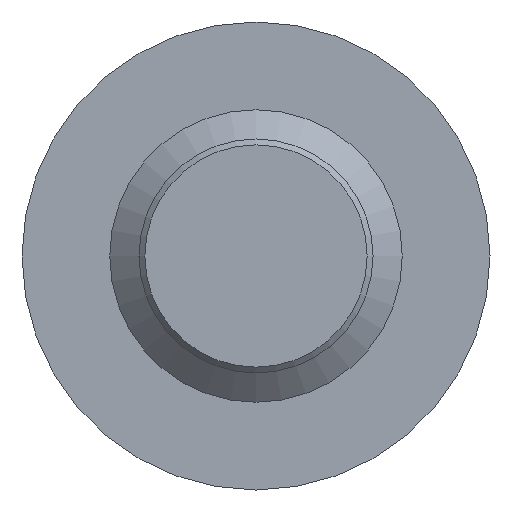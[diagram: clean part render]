
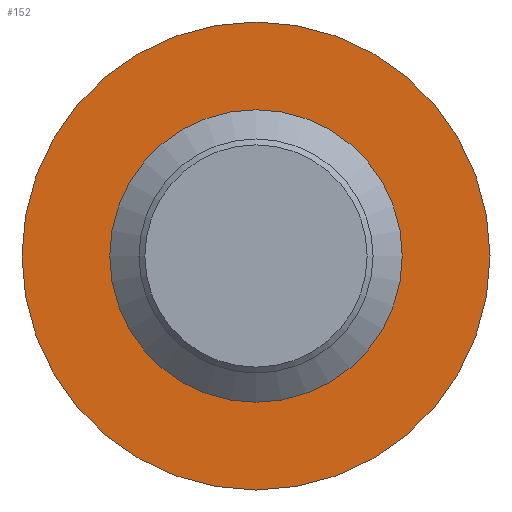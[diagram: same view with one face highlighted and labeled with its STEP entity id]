
A CAD part, front view. The second image highlights one B-rep face of the part: STEP entity #152.
In plain terms, the highlighted planar face has unit normal (0, -1, 0).
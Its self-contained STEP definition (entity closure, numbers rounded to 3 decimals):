
#15=FACE_BOUND('',#57,.T.);
#21=PLANE('',#195);
#45=FACE_OUTER_BOUND('',#56,.T.);
#56=EDGE_LOOP('',(#129));
#57=EDGE_LOOP('',(#130));
#67=CIRCLE('',#186,8.);
#72=CIRCLE('',#196,4.25);
#79=VERTEX_POINT('',#270);
#84=VERTEX_POINT('',#288);
#93=EDGE_CURVE('',#79,#79,#67,.T.);
#100=EDGE_CURVE('',#84,#84,#72,.T.);
#129=ORIENTED_EDGE('',*,*,#93,.F.);
#130=ORIENTED_EDGE('',*,*,#100,.F.);
#152=ADVANCED_FACE('',(#45,#15),#21,.F.);
#186=AXIS2_PLACEMENT_3D('',#272,#219,#220);
#195=AXIS2_PLACEMENT_3D('',#287,#239,#240);
#196=AXIS2_PLACEMENT_3D('',#289,#241,#242);
#219=DIRECTION('center_axis',(0.,1.,0.));
#220=DIRECTION('ref_axis',(1.,0.,0.));
#239=DIRECTION('center_axis',(0.,1.,0.));
#240=DIRECTION('ref_axis',(0.,0.,1.));
#241=DIRECTION('center_axis',(0.,-1.,0.));
#242=DIRECTION('ref_axis',(1.,0.,0.));
#270=CARTESIAN_POINT('',(-8.,36.6,0.));
#272=CARTESIAN_POINT('Origin',(0.,36.6,0.));
#287=CARTESIAN_POINT('Origin',(0.,36.6,0.));
#288=CARTESIAN_POINT('',(-4.25,36.6,0.));
#289=CARTESIAN_POINT('Origin',(0.,36.6,0.));
